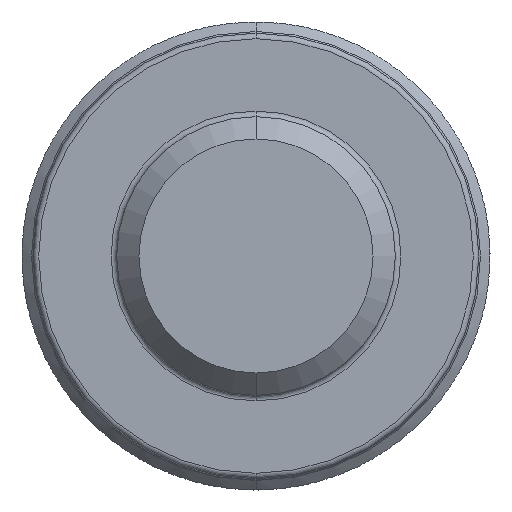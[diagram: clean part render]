
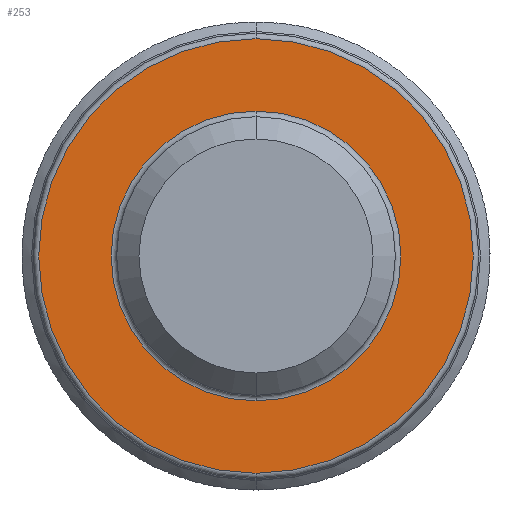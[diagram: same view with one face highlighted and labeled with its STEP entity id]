
A CAD part, front view. The second image highlights one B-rep face of the part: STEP entity #253.
In plain terms, the highlighted planar face has unit normal (0, -1, 0).
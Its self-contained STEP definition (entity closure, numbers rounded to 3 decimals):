
#186 = EDGE_CURVE ( 'NONE', #5753, #2462, #5076, .T. ) ;
#253 = ADVANCED_FACE ( 'NONE', ( #828, #4707 ), #3431, .T. ) ;
#264 = EDGE_CURVE ( 'NONE', #2462, #5753, #3601, .T. ) ;
#620 = DIRECTION ( 'NONE',  ( 0., 0., -1. ) ) ;
#654 = ORIENTED_EDGE ( 'NONE', *, *, #7419, .T. ) ;
#802 = CARTESIAN_POINT ( 'NONE',  ( 0., -5., 2.6 ) ) ;
#828 = FACE_BOUND ( 'NONE', #1941, .T. ) ;
#1508 = CARTESIAN_POINT ( 'NONE',  ( 2.5, -5., 0. ) ) ;
#1587 = AXIS2_PLACEMENT_3D ( 'NONE', #2595, #5723, #620 ) ;
#1941 = EDGE_LOOP ( 'NONE', ( #7075, #6253 ) ) ;
#2001 = CARTESIAN_POINT ( 'NONE',  ( 0., -5., 0. ) ) ;
#2229 = AXIS2_PLACEMENT_3D ( 'NONE', #7433, #4923, #8194 ) ;
#2251 = DIRECTION ( 'NONE',  ( 0., 0., -1. ) ) ;
#2462 = VERTEX_POINT ( 'NONE', #4940 ) ;
#2527 = AXIS2_PLACEMENT_3D ( 'NONE', #2001, #4522, #4568 ) ;
#2595 = CARTESIAN_POINT ( 'NONE',  ( 0., -5., 0. ) ) ;
#3431 = PLANE ( 'NONE',  #7259 ) ;
#3601 = CIRCLE ( 'NONE', #8327, 2.6 ) ;
#3887 = CARTESIAN_POINT ( 'NONE',  ( 0., -5., -3.9 ) ) ;
#4408 = CIRCLE ( 'NONE', #2527, 3.9 ) ;
#4522 = DIRECTION ( 'NONE',  ( 0., -1., 0. ) ) ;
#4568 = DIRECTION ( 'NONE',  ( 0., 0., -1. ) ) ;
#4707 = FACE_OUTER_BOUND ( 'NONE', #6804, .T. ) ;
#4782 = CARTESIAN_POINT ( 'NONE',  ( 0., -5., 0. ) ) ;
#4923 = DIRECTION ( 'NONE',  ( 0., -1., 0. ) ) ;
#4940 = CARTESIAN_POINT ( 'NONE',  ( 0., -5., -2.6 ) ) ;
#5076 = CIRCLE ( 'NONE', #1587, 2.6 ) ;
#5331 = CIRCLE ( 'NONE', #2229, 3.9 ) ;
#5461 = DIRECTION ( 'NONE',  ( 0., -1., 0. ) ) ;
#5490 = VERTEX_POINT ( 'NONE', #6507 ) ;
#5723 = DIRECTION ( 'NONE',  ( 0., 1., 0. ) ) ;
#5753 = VERTEX_POINT ( 'NONE', #802 ) ;
#6253 = ORIENTED_EDGE ( 'NONE', *, *, #186, .T. ) ;
#6507 = CARTESIAN_POINT ( 'NONE',  ( 0., -5., 3.9 ) ) ;
#6549 = ORIENTED_EDGE ( 'NONE', *, *, #6996, .T. ) ;
#6804 = EDGE_LOOP ( 'NONE', ( #654, #6549 ) ) ;
#6996 = EDGE_CURVE ( 'NONE', #5490, #7671, #5331, .T. ) ;
#7075 = ORIENTED_EDGE ( 'NONE', *, *, #264, .T. ) ;
#7210 = DIRECTION ( 'NONE',  ( 0., 0., -1. ) ) ;
#7258 = DIRECTION ( 'NONE',  ( 0., 1., 0. ) ) ;
#7259 = AXIS2_PLACEMENT_3D ( 'NONE', #1508, #5461, #2251 ) ;
#7419 = EDGE_CURVE ( 'NONE', #7671, #5490, #4408, .T. ) ;
#7433 = CARTESIAN_POINT ( 'NONE',  ( 0., -5., 0. ) ) ;
#7671 = VERTEX_POINT ( 'NONE', #3887 ) ;
#8194 = DIRECTION ( 'NONE',  ( 0., 0., -1. ) ) ;
#8327 = AXIS2_PLACEMENT_3D ( 'NONE', #4782, #7258, #7210 ) ;
